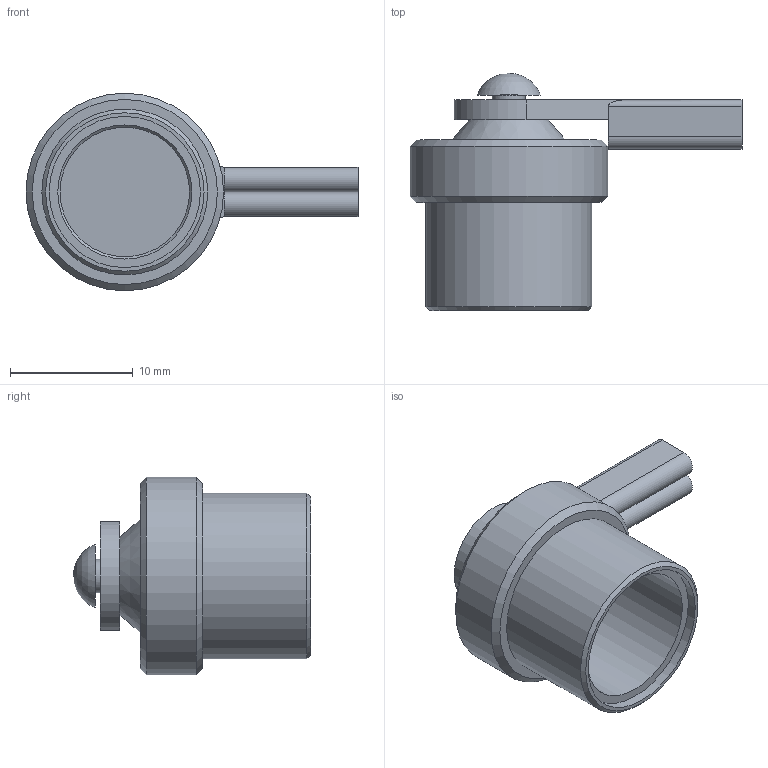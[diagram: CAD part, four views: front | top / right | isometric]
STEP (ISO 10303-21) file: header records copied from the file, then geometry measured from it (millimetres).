
FILE_DESCRIPTION (( 'STEP AP203' ), '1' );
FILE_NAME ('RSV-CC.step', '2019-01-09T14:09:16', ( '' ), ( '' ), 'SwSTEP 2.0', 'SolidWorks 2017', '' );
FILE_SCHEMA (( 'CONFIG_CONTROL_DESIGN' ));
Length unit declared in the file: millimetre
Products named in the file (1): RSV-CC
Bounding box: 27.05 x 19.33 x 16.1 mm (x, y, z)
Volume: 1698.7 mm3; surface area: 2051 mm2
Topology: 3 solids, 3 shells, 48 faces, 103 edges, 66 vertices
Faces by surface type: plane 23, cylinder 16, cone 8, sphere 1
Full cylindrical faces by diameter (mm): 2.645 x1, 4.5 x1, 10.931 x1, 12.315 x1, 13.516 x1, 16.1 x1
Entity records: 1297 total; most frequent: DIRECTION 224, CARTESIAN_POINT 207, ORIENTED_EDGE 174, AXIS2_PLACEMENT_3D 90, EDGE_CURVE 87, EDGE_LOOP 70, VERTEX_POINT 65, FACE_OUTER_BOUND 54
